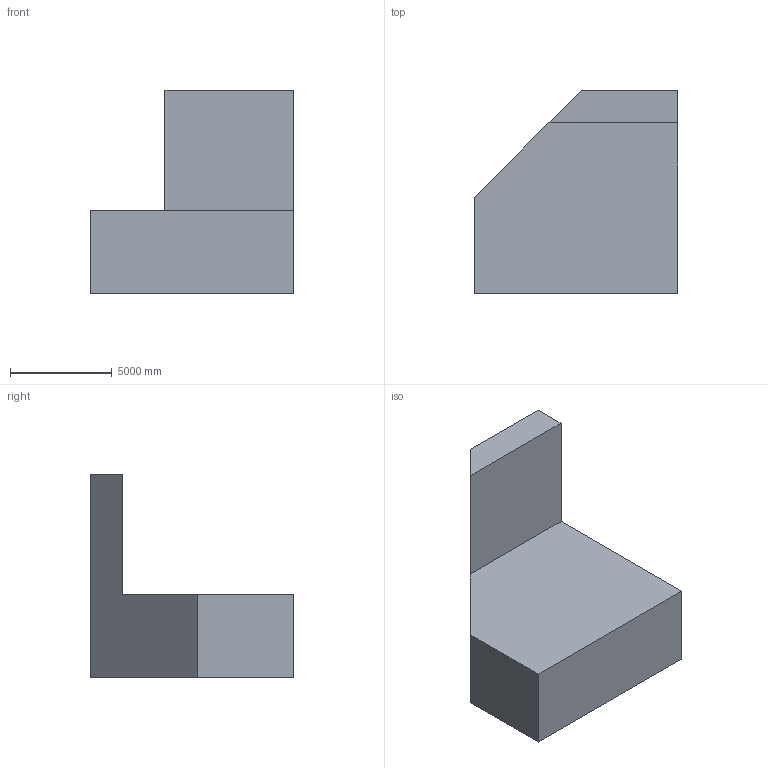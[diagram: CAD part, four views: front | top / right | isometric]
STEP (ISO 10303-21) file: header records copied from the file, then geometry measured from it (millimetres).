
FILE_DESCRIPTION (( 'STEP AP203' ), '1' );
FILE_NAME ('1038.STEP', '2022-08-18T12:31:00', ( 'user' ), ( '' ), 'SwSTEP 2.0', 'SolidWorks 2021', '' );
FILE_SCHEMA (( 'CONFIG_CONTROL_DESIGN' ));
Length unit declared in the file: centimetre
Products named in the file (1): 1038
Bounding box: 10000 x 10000 x 10000 mm (x, y, z)
Volume: 404014333235.2 mm3; surface area: 411273533.1 mm2
Topology: 1 solids, 1 shells, 9 faces, 21 edges, 14 vertices
Faces by surface type: plane 9
Entity records: 332 total; most frequent: CARTESIAN_POINT 45, ORIENTED_EDGE 42, DIRECTION 41, EDGE_CURVE 21, LINE 21, VECTOR 21, VERTEX_POINT 14, AXIS2_PLACEMENT_3D 10
